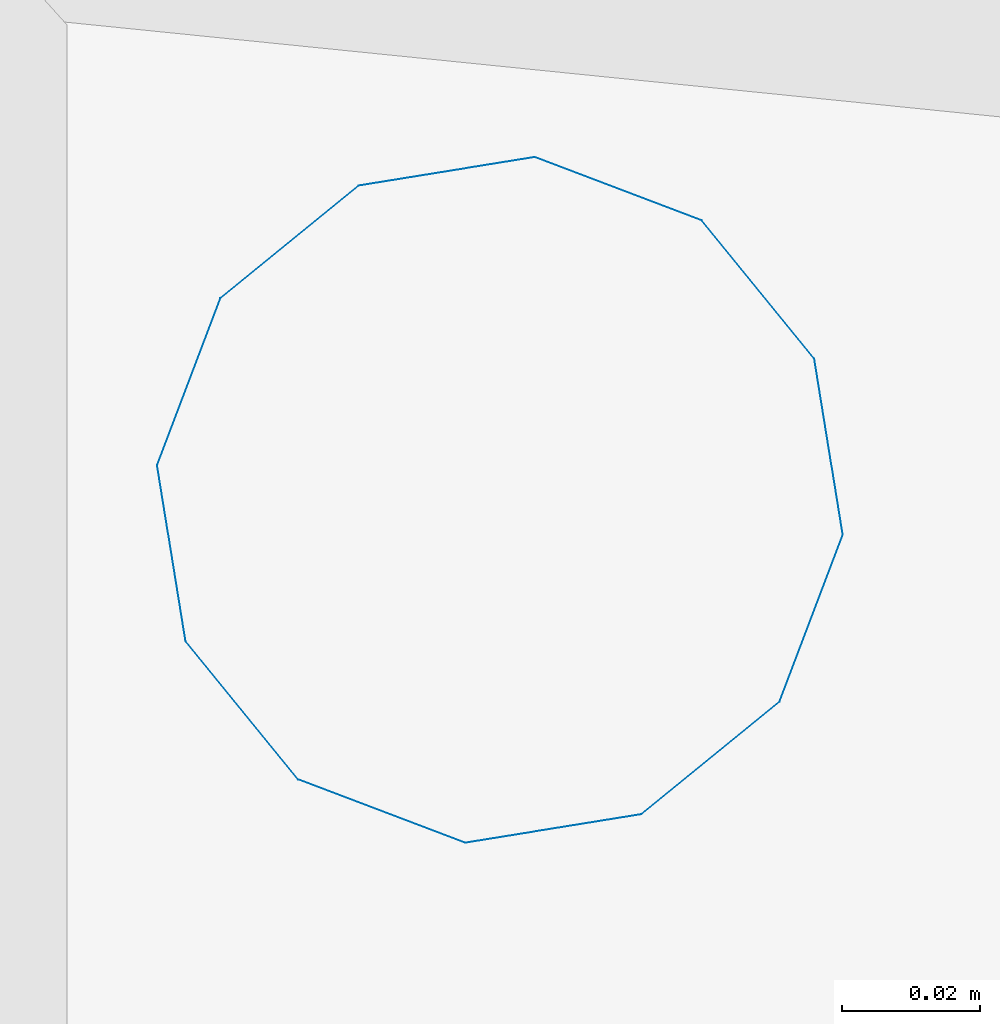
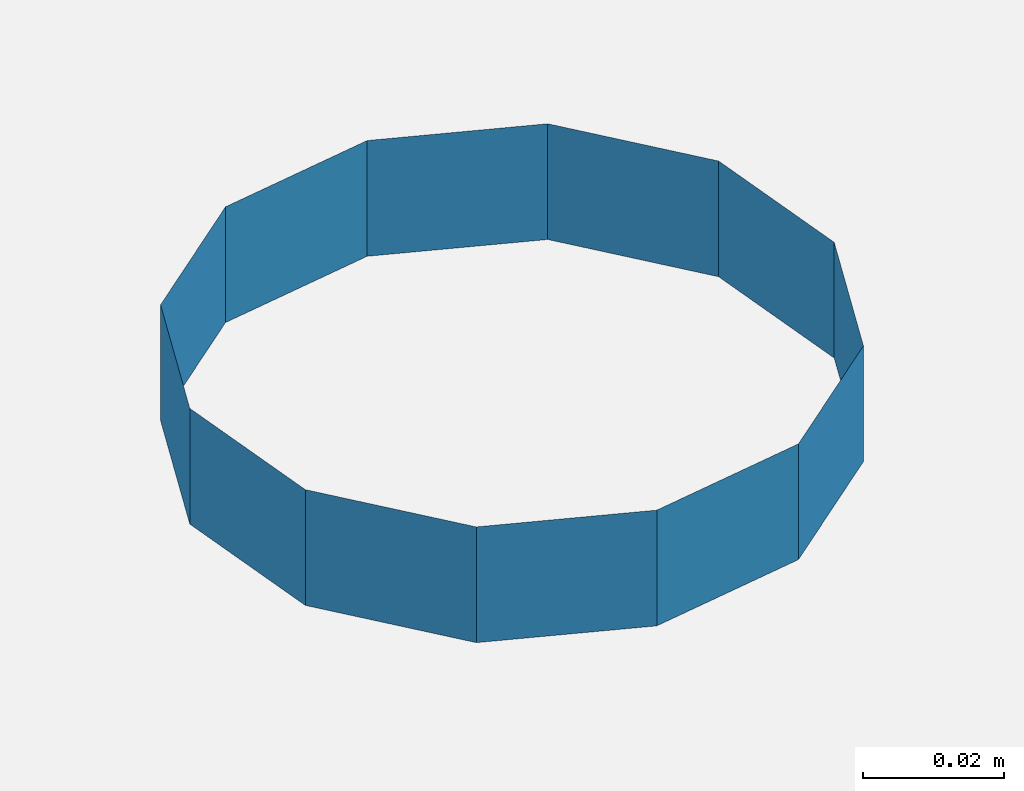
# One storey, part 105 of 171: 1 discrete accessory.
"""IFC2X3 building model written with IfcOpenShell, lengths in millimetres."""

from ifc_helpers import new_model, entity, si_unit, converted_unit, derived_unit, money_unit, direction, frame, origin_with_axes, place, context, subcontext, project, spatial, open_shell, surface_model, source, transform, mapped, type_object, element, save


model = new_model("IFC2X3")

# Units and contexts
model_context = context("Model", 3, precision=0.01, world=origin_with_axes(), true_north=direction((0.0, 1.0)))
body_context = subcontext(model_context, "Body", "Model", "MODEL_VIEW")
ifc_project = project(units=[si_unit("LENGTHUNIT", "METRE", prefix="MILLI"), si_unit("AREAUNIT", "SQUARE_METRE"), si_unit("VOLUMEUNIT", "CUBIC_METRE"), converted_unit("PLANEANGLEUNIT", "DEGREE", entity("IfcPlaneAngleMeasure", 0.0174532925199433), si_unit("PLANEANGLEUNIT", "RADIAN"), dimensions=[0, 0, 0, 0, 0, 0, 0]), money_unit("USD"), converted_unit("TIMEUNIT", "Year", entity("IfcTimeMeasure", 31557600.0), si_unit("TIMEUNIT", "SECOND"), dimensions=[0, 0, 1, 0, 0, 0, 0]), si_unit("MASSUNIT", "GRAM", prefix="KILO"), si_unit("THERMODYNAMICTEMPERATUREUNIT", "DEGREE_CELSIUS"), si_unit("LUMINOUSINTENSITYUNIT", "LUMEN"), si_unit("ENERGYUNIT", "JOULE", prefix="MEGA"), derived_unit("THERMALCONDUCTANCEUNIT", [(si_unit("POWERUNIT", "WATT"), 1), (si_unit("LENGTHUNIT", "METRE"), -1), (si_unit("THERMODYNAMICTEMPERATUREUNIT", "KELVIN"), -1)]), derived_unit("SPECIFICHEATCAPACITYUNIT", [(si_unit("ENERGYUNIT", "JOULE"), 1), (si_unit("MASSUNIT", "GRAM", prefix="KILO"), -1), (si_unit("THERMODYNAMICTEMPERATUREUNIT", "KELVIN"), -1)]), derived_unit("MASSDENSITYUNIT", [(si_unit("MASSUNIT", "GRAM", prefix="KILO"), 1), (si_unit("VOLUMEUNIT", "CUBIC_METRE"), -1)])], contexts=[model_context])

# Site, building, storey
site_placement = place(None, origin_with_axes())
site = spatial("IfcSite", under=ifc_project, at=site_placement, Name="Site", CompositionType="ELEMENT")
building_placement = place(site_placement, origin_with_axes())
building = spatial("IfcBuilding", under=site, at=building_placement, Name="Bâtiment", CompositionType="ELEMENT")
storey_placement = place(building_placement, frame((0.0, 0.0, 3000.0), z_axis=(0.0, 0.0, 1.0), x_axis=(1.0, 0.0, 0.0)))
storey = spatial("IfcBuildingStorey", under=building, at=storey_placement, Name="rdc", CompositionType="ELEMENT", Elevation=3000.0)

# Discrete accessory
discrete_accessory_type = type_object("IfcDiscreteAccessoryType", Name="Tuyau descente 27")
shared_shape = source(origin_with_axes(), body_context, "Body", "SurfaceModel", [
    surface_model("IfcShellBasedSurfaceModel", [(-50.0, 0.0, 20.0), (-50.0, 0.0, 0.0), (-43.30127018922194, -25.0, 0.0), (-43.30127018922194, -25.0, 20.0), (-43.30127018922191, 25.00000000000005, 20.0), (-43.30127018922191, 25.00000000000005, 0.0), (-25.00000000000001, -43.30127018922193, 0.0), (-25.00000000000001, -43.30127018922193, 20.0), (-24.99999999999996, 43.30127018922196, 20.0), (-24.99999999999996, 43.30127018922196, 0.0), (0.0, -50.0, 0.0), (0.0, -50.0, 20.0), (0.0, 50.0, 20.0), (0.0, 50.0, 0.0), (24.99999999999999, -43.30127018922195, 0.0), (24.99999999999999, -43.30127018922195, 20.0), (25.00000000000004, 43.30127018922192, 20.0), (25.00000000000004, 43.30127018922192, 0.0), (43.30127018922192, -25.00000000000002, 0.0), (43.30127018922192, -25.00000000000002, 20.0), (43.30127018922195, 24.99999999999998, 20.0), (43.30127018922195, 24.99999999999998, 0.0), (50.0, 0.0, 0.0), (50.0, 0.0, 20.0)], [open_shell([[[0, 1, 2, 3]], [[4, 5, 1, 0]], [[3, 2, 6, 7]], [[8, 9, 5, 4]], [[7, 6, 10, 11]], [[12, 13, 9, 8]], [[11, 10, 14, 15]], [[16, 17, 13, 12]], [[15, 14, 18, 19]], [[20, 21, 17, 16]], [[19, 18, 22, 23]], [[23, 22, 21, 20]]])]),
])
discrete_accessory_placement = place(storey_placement, frame((2216947.023107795, -604189.3675925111, 0.0), z_axis=(0.0, 0.0, 1.0), x_axis=(-0.9948759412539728, 0.1011032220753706, 0.0)))
element("IfcDiscreteAccessory", 1, at=discrete_accessory_placement, inside=storey, type_object=discrete_accessory_type, Name="Obj.-318", context=body_context, shape_type="MappedRepresentation", body=[
    mapped(shared_shape, transform((0.0, 0.0, 0.0))),
])

save(model, "model.ifc")
